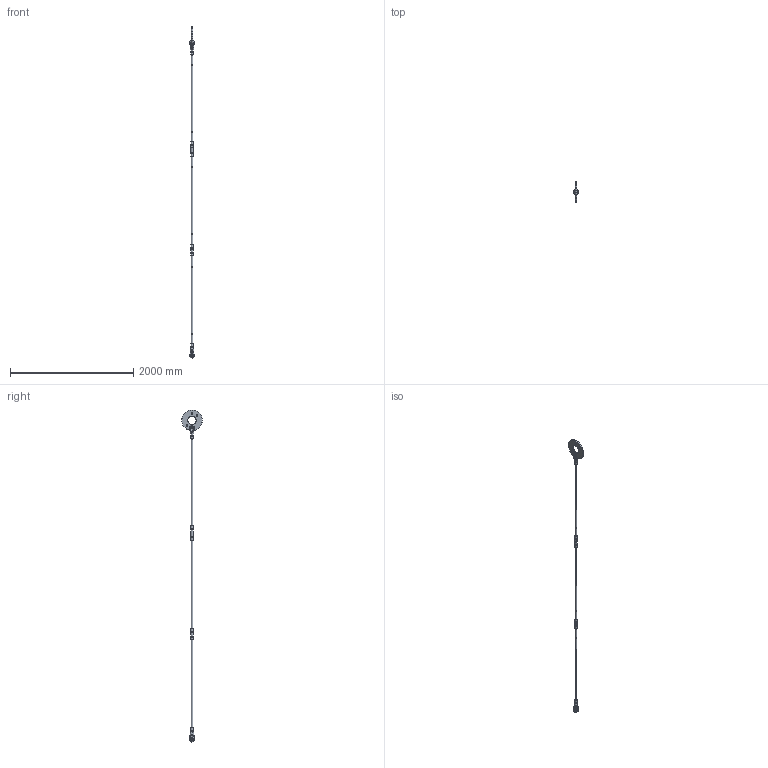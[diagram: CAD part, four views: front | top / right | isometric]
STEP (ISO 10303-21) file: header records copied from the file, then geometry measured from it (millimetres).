
FILE_DESCRIPTION(/* description */ (''),/* implementation_level */ '2;1');
FILE_NAME(/* name */ 'C:\Vault-WS\Anker\Werksnorm\Hochbau\ASDO-System\ASDO-S\System Komplett\Step\M 027.stp',/* time_stamp */ '2014-01-30T09:14:10+01:00',/* author */ ('ritgen'),/* organization */ (''),/* preprocessor_version */ 'ST-DEVELOPER v15.2',/* originating_system */ 'Autodesk Inventor 2014',/* authorisation */ '');
FILE_SCHEMA (('AUTOMOTIVE_DESIGN { 1 0 10303 214 3 1 1 }'));
Length unit declared in the file: millimetre
Products named in the file (11): ASDO-005755; ASDO-006224; ASDO-014320; DIN 7991 - M5x12 - 8.8; ASDO-013929; ASDO-001628; ASDO-001321; ASDO-001447; ASDO-013956; ASDO-013970; ASDO-013955
Bounding box: 68.5 x 334.68 x 5377.24 mm (x, y, z)
Volume: 5117411.1 mm3; surface area: 841902.1 mm2
Topology: 20 solids, 20 shells, 461 faces, 988 edges, 606 vertices
Faces by surface type: plane 158, bspline 144, cylinder 77, cone 44, torus 38
Full cylindrical faces by diameter (mm): 4.134 x2, 5 x20, 5.8 x2, 10 x2, 23.752 x10, 27 x5, 28 x8, 30 x6, 38.5 x6, 40 x4, 42 x2, 135 x1, 335 x1
Entity records: 13768 total; most frequent: CARTESIAN_POINT 9476, ORIENTED_EDGE 778, DIRECTION 774, EDGE_CURVE 389, AXIS2_PLACEMENT_3D 346, EDGE_LOOP 310, VERTEX_POINT 269, ADVANCED_FACE 212
